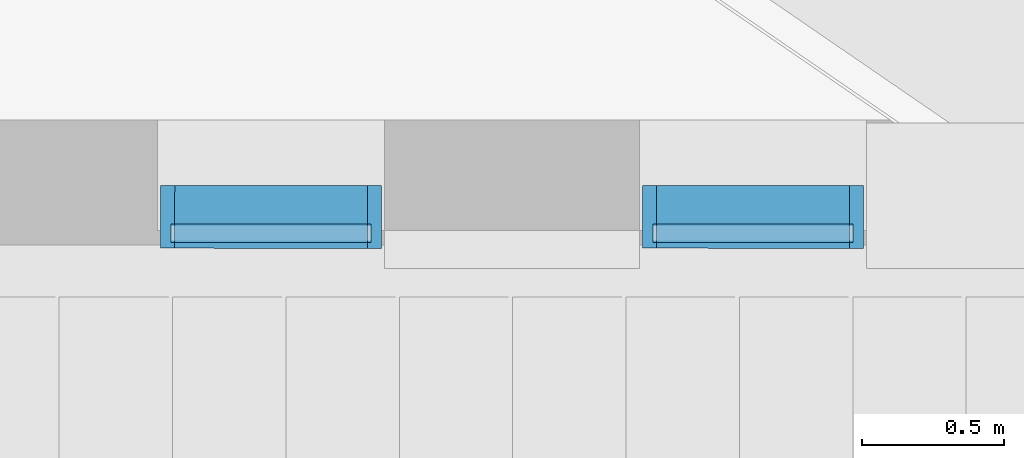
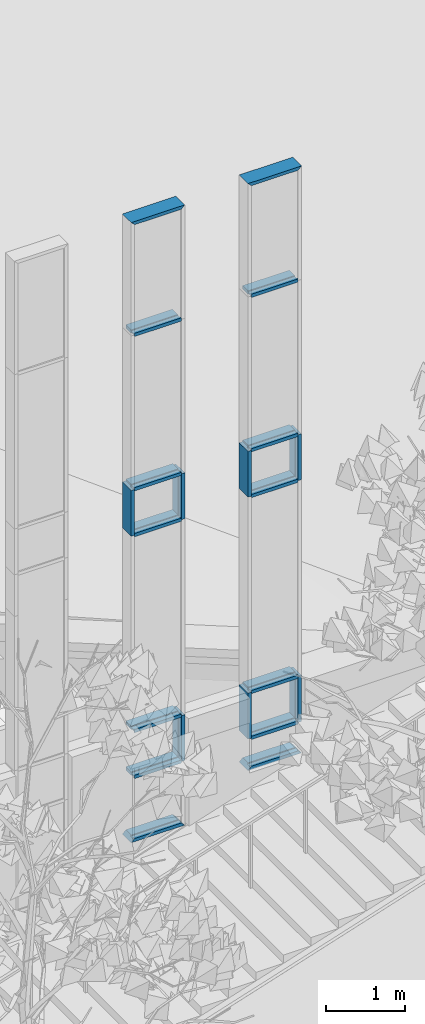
# One storey, part 47 of 246: 21 members, 2 elements without a shape of their own.
"""IFC2X3 building model written with IfcOpenShell, lengths in millimetres."""

from ifc_helpers import new_model, entity, si_unit, converted_unit, derived_unit, money_unit, direction, frame, origin_with_axes, place, context, subcontext, project, spatial, faceted_brep, source, transform, mapped, material, type_object, element, aggregate, save


model = new_model("IFC2X3")

# Units and contexts
model_context = context("Model", 3, precision=0.01, world=origin_with_axes(), true_north=direction((0.0, 1.0)))
body_context = subcontext(model_context, "Body", "Model", "MODEL_VIEW")
ifc_project = project(units=[si_unit("LENGTHUNIT", "METRE", prefix="MILLI"), si_unit("AREAUNIT", "SQUARE_METRE"), si_unit("VOLUMEUNIT", "CUBIC_METRE"), converted_unit("PLANEANGLEUNIT", "DEGREE", entity("IfcPlaneAngleMeasure", 0.0174532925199), si_unit("PLANEANGLEUNIT", "RADIAN"), dimensions=[0, 0, 0, 0, 0, 0, 0]), si_unit("SOLIDANGLEUNIT", "STERADIAN"), money_unit("EUR"), converted_unit("TIMEUNIT", "Year", entity("IfcTimeMeasure", 31556926.0), si_unit("TIMEUNIT", "SECOND"), dimensions=[0, 0, 1, 0, 0, 0, 0]), si_unit("MASSUNIT", "GRAM", prefix="KILO"), si_unit("THERMODYNAMICTEMPERATUREUNIT", "DEGREE_CELSIUS"), si_unit("LUMINOUSINTENSITYUNIT", "LUMEN"), si_unit("ENERGYUNIT", "JOULE", prefix="MEGA"), derived_unit("THERMALCONDUCTANCEUNIT", [(si_unit("POWERUNIT", "WATT"), 1), (si_unit("LENGTHUNIT", "METRE"), -1), (si_unit("THERMODYNAMICTEMPERATUREUNIT", "KELVIN"), -1)]), derived_unit("SPECIFICHEATCAPACITYUNIT", [(si_unit("ENERGYUNIT", "JOULE"), 1), (si_unit("MASSUNIT", "GRAM", prefix="KILO"), -1), (si_unit("THERMODYNAMICTEMPERATUREUNIT", "KELVIN"), -1)]), derived_unit("MASSDENSITYUNIT", [(si_unit("MASSUNIT", "GRAM", prefix="KILO"), 1), (si_unit("VOLUMEUNIT", "CUBIC_METRE"), -1)])], contexts=[model_context])

# Site, building, storey
site_placement = place(None, origin_with_axes())
site = spatial("IfcSite", under=ifc_project, at=site_placement, Name="L.Koidula tn 11b", CompositionType="ELEMENT")
building_placement = place(site_placement, origin_with_axes())
building = spatial("IfcBuilding", under=site, at=building_placement, Name="Rakvere Riigigümnaasium", CompositionType="ELEMENT")
storey_placement = place(building_placement, origin_with_axes())
storey = spatial("IfcBuildingStorey", under=building, at=storey_placement, Name="1.korrus 0,00", CompositionType="ELEMENT", Elevation=0.0)

# Curtain wall, members
curtain_wall_type = type_object("IfcCurtainWallType", Name="Curtain Wall Type", PredefinedType="NOTDEFINED")
curtain_wall_1_placement = place(storey_placement, frame((102199.946081, 5111.65323731, 2560.0), z_axis=(0.0, 0.0, 1.0), x_axis=(1.0, 0.0, 0.0)))
curtain_wall_1 = element("IfcCurtainWall", 1, at=curtain_wall_1_placement, inside=storey, type_object=curtain_wall_type, Name="KLF-05-4A3")
ifc_material = material(Name="Alumiiniumprofiil (RAL 7021)")
member_type_1 = type_object("IfcMemberType", Name="Boundary Frame 50 x 222", PredefinedType="MULLION")
shared_shape_1 = source(origin_with_axes(), body_context, "Body", "Brep", [
    faceted_brep([(37.0, -32.5, 705.000000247), (37.0, 32.5, 705.000000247), (50.0, 32.5, 705.000000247), (50.0, 53.0, 705.000000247), (0.0, 53.0, 705.000000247), (0.0, -169.0, 705.000000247), (50.0, -169.0, 705.000000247), (50.0, -32.5, 705.000000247), (37.0, -32.5, 0.0), (37.0, 32.5, 0.0), (50.0, 32.5, 0.0), (50.0, 53.0, 0.0), (0.0, 53.0, 0.0), (0.0, -169.0, 0.0), (50.0, -169.0, 0.0), (50.0, -32.5, 0.0)], [[[0, 1, 2, 3, 4, 5, 6, 7]], [[1, 0, 8, 9]], [[10, 2, 1, 9]], [[2, 10, 11, 3]], [[12, 4, 3, 11]], [[13, 5, 4, 12]], [[14, 6, 5, 13]], [[15, 7, 6, 14]], [[0, 7, 15, 8]], [[8, 15, 14, 13, 12, 11, 10, 9]]]),
])
member_1_placement = place(curtain_wall_1_placement, frame((-389.999808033, 0.0451050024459, 1190.0), z_axis=(0.0, 0.0, -1.0), x_axis=(0.999999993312, -0.00011565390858, 0.0)))
member_1 = element("IfcMember", 2, at=member_1_placement, type_object=member_type_1, material=ifc_material, Name="KLF-05-2A-Profiilid", ObjectType="MULLION", context=body_context, shape_type="MappedRepresentation", body=[
    mapped(shared_shape_1, transform((0.0, 0.0, 0.0))),
])
member_2_placement = place(curtain_wall_1_placement, frame((-389.999808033, 0.0451050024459, 4910.0), z_axis=(0.0, 0.0, -1.0), x_axis=(0.999999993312, -0.00011565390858, 0.0)))
member_2 = element("IfcMember", 3, at=member_2_placement, type_object=member_type_1, material=ifc_material, Name="KLF-05-0A-Profiilid", ObjectType="MULLION", context=body_context, shape_type="MappedRepresentation", body=[
    mapped(shared_shape_1, transform((0.0, 0.0, 0.0))),
])
member_3_placement = place(curtain_wall_1_placement, frame((389.999808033, -0.0451050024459, 4205.0), z_axis=(0.0, 0.0, 1.0), x_axis=(-0.999999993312, 0.00011565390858, 0.0)))
member_3 = element("IfcMember", 4, at=member_3_placement, type_object=member_type_1, material=ifc_material, Name="KLF-05-4A-Profiilid", ObjectType="MULLION", context=body_context, shape_type="MappedRepresentation", body=[
    mapped(shared_shape_1, transform((0.0, 0.0, 0.0))),
])
member_4_placement = place(curtain_wall_1_placement, frame((389.999808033, -0.0451050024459, 485.0), z_axis=(0.0, 0.0, 1.0), x_axis=(-0.999999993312, 0.00011565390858, 0.0)))
member_4 = element("IfcMember", 5, at=member_4_placement, type_object=member_type_1, material=ifc_material, Name="KLF-05-2A-Profiilid", ObjectType="MULLION", context=body_context, shape_type="MappedRepresentation", body=[
    mapped(shared_shape_1, transform((0.0, 0.0, 0.0))),
])

curtain_wall_2_placement = place(storey_placement, frame((100499.941472, 5111.64286466, 2044.99997146), z_axis=(0.0, 0.0, 1.0), x_axis=(1.0, 0.0, 0.0)))
curtain_wall_2 = element("IfcCurtainWall", 6, at=curtain_wall_2_placement, inside=storey, type_object=curtain_wall_type, Name="KLF-05-4A2")
member_5_placement = place(curtain_wall_2_placement, frame((-389.999798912, 0.0554782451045, 5420.0), z_axis=(0.0, 0.0, -1.0), x_axis=(0.999999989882, -0.000142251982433, 0.0)))
member_5 = element("IfcMember", 7, at=member_5_placement, type_object=member_type_1, material=ifc_material, Name="KLF-05-5A-Profiilid", ObjectType="MULLION", context=body_context, shape_type="MappedRepresentation", body=[
    mapped(shared_shape_1, transform((0.0, 0.0, 0.0))),
])
member_6_placement = place(curtain_wall_2_placement, frame((389.999845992, -0.0554782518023, 4715.0), z_axis=(0.0, 0.0, 1.0), x_axis=(-0.999999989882, 0.000142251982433, 0.0)))
member_6 = element("IfcMember", 8, at=member_6_placement, type_object=member_type_1, material=ifc_material, Name="KLF-05-9A-Profiilid", ObjectType="MULLION", context=body_context, shape_type="MappedRepresentation", body=[
    mapped(shared_shape_1, transform((0.0, 0.0, 0.0))),
])
member_7_placement = place(curtain_wall_2_placement, frame((389.999845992, -0.0554782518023, 995.0), z_axis=(0.0, 0.0, 1.0), x_axis=(-0.999999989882, 0.000142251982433, 0.0)))
member_7 = element("IfcMember", 9, at=member_7_placement, type_object=member_type_1, material=ifc_material, Name="KLF-05-7A-Profiilid", ObjectType="MULLION", context=body_context, shape_type="MappedRepresentation", body=[
    mapped(shared_shape_1, transform((0.0, 0.0, 0.0))),
])

# Member
member_type_2 = type_object("IfcMemberType", Name="Transom Frame 50 x 222", PredefinedType="MULLION")
shared_shape_2 = source(origin_with_axes(), body_context, "Body", "Brep", [
    faceted_brep([(-12.0, -32.5, 730.000405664), (-25.0, -32.5, 730.000405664), (-25.0, -169.0, 730.000405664), (25.0, -169.0, 730.000405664), (25.0, -32.5, 730.000405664), (12.0, -32.5, 730.000405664), (12.0, 32.5, 730.000405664), (25.0, 32.5, 730.000405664), (25.0, 53.0, 730.000405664), (-25.0, 53.0, 730.000405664), (-25.0, 32.5, 730.000405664), (-12.0, 32.5, 730.000405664), (-12.0, -32.5, 50.0), (-25.0, -32.5, 50.0), (-25.0, -169.0, 50.0), (25.0, -169.0, 50.0), (25.0, -32.5, 50.0), (12.0, -32.5, 50.0), (12.0, 32.5, 50.0), (25.0, 32.5, 50.0), (25.0, 53.0, 50.0), (-25.0, 53.0, 50.0), (-25.0, 32.5, 50.0), (-12.0, 32.5, 50.0)], [[[0, 1, 2, 3, 4, 5, 6, 7, 8, 9, 10, 11]], [[1, 0, 12, 13]], [[1, 13, 14, 2]], [[2, 14, 15, 3]], [[4, 3, 15, 16]], [[4, 16, 17, 5]], [[5, 17, 18, 6]], [[7, 6, 18, 19]], [[19, 20, 8, 7]], [[8, 20, 21, 9]], [[22, 10, 9, 21]], [[11, 10, 22, 23]], [[0, 11, 23, 12]], [[23, 22, 21, 20, 19, 18, 17, 16, 15, 14, 13, 12]]]),
])
member_8_placement = place(curtain_wall_1_placement, frame((-389.999808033, 0.0451050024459, 7285.0), z_axis=(0.999999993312, -0.00011565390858, 0.0), x_axis=(0.0, 0.0, 1.0)))
member_8 = element("IfcMember", 10, at=member_8_placement, type_object=member_type_2, material=ifc_material, Name="KLF-05-7A-Profiilid", ObjectType="MULLION", context=body_context, shape_type="MappedRepresentation", body=[
    mapped(shared_shape_2, transform((0.0, 0.0, 0.0))),
])

member_9_placement = place(curtain_wall_1_placement, frame((-389.999808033, 0.0451050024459, 4910.0), z_axis=(0.999999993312, -0.00011565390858, 0.0), x_axis=(0.0, 0.0, 1.0)))
member_9 = element("IfcMember", 11, at=member_9_placement, type_object=member_type_2, material=ifc_material, Name="KLF-05-8A-Profiilid", ObjectType="MULLION", context=body_context, shape_type="MappedRepresentation", body=[
    mapped(shared_shape_2, transform((0.0, 0.0, 0.0))),
])

member_10_placement = place(curtain_wall_1_placement, frame((-389.999808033, 0.0451050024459, 4205.0), z_axis=(0.999999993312, -0.00011565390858, 0.0), x_axis=(0.0, 0.0, 1.0)))
member_10 = element("IfcMember", 12, at=member_10_placement, type_object=member_type_2, material=ifc_material, Name="KLF-05-9A-Profiilid", ObjectType="MULLION", context=body_context, shape_type="MappedRepresentation", body=[
    mapped(shared_shape_2, transform((0.0, 0.0, 0.0))),
])

member_11_placement = place(curtain_wall_1_placement, frame((-389.999808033, 0.0451050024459, 1190.0), z_axis=(0.999999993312, -0.00011565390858, 0.0), x_axis=(0.0, 0.0, 1.0)))
member_11 = element("IfcMember", 13, at=member_11_placement, type_object=member_type_2, material=ifc_material, Name="KLF-05-5A-Profiilid", ObjectType="MULLION", context=body_context, shape_type="MappedRepresentation", body=[
    mapped(shared_shape_2, transform((0.0, 0.0, 0.0))),
])

member_12_placement = place(curtain_wall_1_placement, frame((-389.999808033, 0.0451050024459, 485.0), z_axis=(0.999999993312, -0.00011565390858, 0.0), x_axis=(0.0, 0.0, 1.0)))
member_12 = element("IfcMember", 14, at=member_12_placement, type_object=member_type_2, material=ifc_material, Name="KLF-05-6A-Profiilid", ObjectType="MULLION", context=body_context, shape_type="MappedRepresentation", body=[
    mapped(shared_shape_2, transform((0.0, 0.0, 0.0))),
])

member_13_placement = place(curtain_wall_2_placement, frame((-389.999798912, 0.0554782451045, 7795.0), z_axis=(0.999999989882, -0.000142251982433, 0.0), x_axis=(0.0, 0.0, 1.0)))
member_13 = element("IfcMember", 15, at=member_13_placement, type_object=member_type_2, material=ifc_material, Name="KLF-05-7A-Profiilid", ObjectType="MULLION", context=body_context, shape_type="MappedRepresentation", body=[
    mapped(shared_shape_2, transform((0.0, 0.0, 0.0))),
])

member_14_placement = place(curtain_wall_2_placement, frame((-389.999798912, 0.0554782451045, 5420.0), z_axis=(0.999999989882, -0.000142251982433, 0.0), x_axis=(0.0, 0.0, 1.0)))
member_14 = element("IfcMember", 16, at=member_14_placement, type_object=member_type_2, material=ifc_material, Name="KLF-05-8A-Profiilid", ObjectType="MULLION", context=body_context, shape_type="MappedRepresentation", body=[
    mapped(shared_shape_2, transform((0.0, 0.0, 0.0))),
])

member_15_placement = place(curtain_wall_2_placement, frame((-389.999798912, 0.0554782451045, 4715.0), z_axis=(0.999999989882, -0.000142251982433, 0.0), x_axis=(0.0, 0.0, 1.0)))
member_15 = element("IfcMember", 17, at=member_15_placement, type_object=member_type_2, material=ifc_material, Name="KLF-05-9A-Profiilid", ObjectType="MULLION", context=body_context, shape_type="MappedRepresentation", body=[
    mapped(shared_shape_2, transform((0.0, 0.0, 0.0))),
])

member_16_placement = place(curtain_wall_2_placement, frame((-389.999798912, 0.0554782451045, 1700.0), z_axis=(0.999999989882, -0.000142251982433, 0.0), x_axis=(0.0, 0.0, 1.0)))
member_16 = element("IfcMember", 18, at=member_16_placement, type_object=member_type_2, material=ifc_material, Name="KLF-05-5A-Profiilid", ObjectType="MULLION", context=body_context, shape_type="MappedRepresentation", body=[
    mapped(shared_shape_2, transform((0.0, 0.0, 0.0))),
])

member_17_placement = place(curtain_wall_2_placement, frame((-389.999798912, 0.0554782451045, 995.0), z_axis=(0.999999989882, -0.000142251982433, 0.0), x_axis=(0.0, 0.0, 1.0)))
member_17 = element("IfcMember", 19, at=member_17_placement, type_object=member_type_2, material=ifc_material, Name="KLF-05-6A-Profiilid", ObjectType="MULLION", context=body_context, shape_type="MappedRepresentation", body=[
    mapped(shared_shape_2, transform((0.0, 0.0, 0.0))),
])

shared_shape_3 = source(origin_with_axes(), body_context, "Body", "Brep", [
    faceted_brep([(37.0, -32.5, 743.000405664), (37.0, 32.5, 743.000405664), (50.0, 32.5, 730.000405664), (50.0, 53.0, 730.000405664), (0.0, 53.0, 780.000405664), (0.0, -169.0, 780.000405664), (50.0, -169.0, 730.000405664), (50.0, -32.5, 730.000405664), (37.0, -32.5, 37.0), (37.0, 32.5, 37.0), (50.0, 32.5, 50.0), (50.0, 53.0, 50.0), (0.0, 53.0, 0.0), (0.0, -169.0, 0.0), (50.0, -169.0, 50.0), (50.0, -32.5, 50.0)], [[[0, 1, 2, 3, 4, 5, 6, 7]], [[1, 0, 8, 9]], [[10, 2, 1, 9]], [[2, 10, 11, 3]], [[4, 3, 11, 12]], [[5, 4, 12, 13]], [[6, 5, 13, 14]], [[15, 7, 6, 14]], [[0, 7, 15, 8]], [[8, 15, 14, 13, 12, 11, 10, 9]]]),
])
member_18_placement = place(curtain_wall_1_placement, frame((-389.999808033, 0.0451050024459, 0.0), z_axis=(0.999999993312, -0.00011565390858, 0.0), x_axis=(0.0, 0.0, 1.0)))
member_18 = element("IfcMember", 20, at=member_18_placement, type_object=member_type_1, material=ifc_material, Name="KLF-05-0A-Profiilid", ObjectType="MULLION", context=body_context, shape_type="MappedRepresentation", body=[
    mapped(shared_shape_3, transform((0.0, 0.0, 0.0))),
])

member_19_placement = place(curtain_wall_1_placement, frame((389.999817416, -0.0451050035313, 9029.99998122), z_axis=(-0.999999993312, 0.00011565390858, 0.0), x_axis=(0.0, 0.0, -1.0)))
member_19 = element("IfcMember", 21, at=member_19_placement, type_object=member_type_1, material=ifc_material, Name="KLF-05-7A-Profiilid", ObjectType="MULLION", context=body_context, shape_type="MappedRepresentation", body=[
    mapped(shared_shape_3, transform((0.0, 0.0, 0.0))),
])

aggregate(curtain_wall_1, [member_1, member_2, member_8, member_9, member_10, member_18, member_3, member_11, member_4, member_12, member_19])

member_20_placement = place(curtain_wall_2_placement, frame((-389.999798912, 0.0554782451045, 0.0), z_axis=(0.999999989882, -0.000142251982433, 0.0), x_axis=(0.0, 0.0, 1.0)))
member_20 = element("IfcMember", 22, at=member_20_placement, type_object=member_type_1, material=ifc_material, Name="KLF-05-5A-Profiilid", ObjectType="MULLION", context=body_context, shape_type="MappedRepresentation", body=[
    mapped(shared_shape_3, transform((0.0, 0.0, 0.0))),
])

member_21_placement = place(curtain_wall_2_placement, frame((389.999815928, -0.0554782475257, 9540.0000456), z_axis=(-0.999999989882, 0.000142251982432, 0.0), x_axis=(0.0, 0.0, -1.0)))
member_21 = element("IfcMember", 23, at=member_21_placement, type_object=member_type_1, material=ifc_material, Name="KLF-05-2A-Profiilid", ObjectType="MULLION", context=body_context, shape_type="MappedRepresentation", body=[
    mapped(shared_shape_3, transform((0.0, 0.0, 0.0))),
])

aggregate(curtain_wall_2, [member_5, member_13, member_14, member_15, member_20, member_6, member_16, member_7, member_17, member_21])

save(model, "model.ifc")
